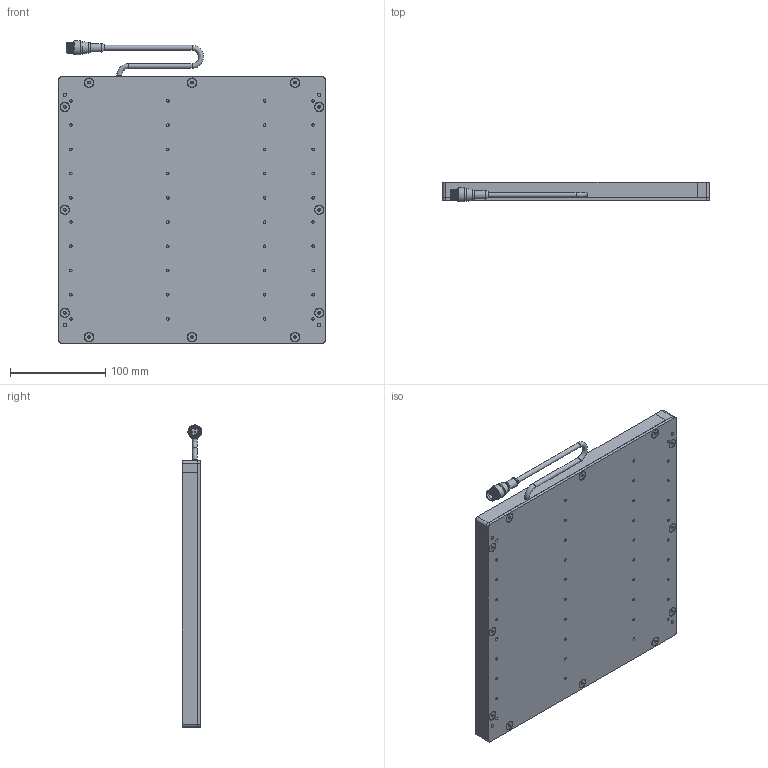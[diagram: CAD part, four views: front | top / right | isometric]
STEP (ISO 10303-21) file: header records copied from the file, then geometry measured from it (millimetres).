
FILE_DESCRIPTION (( 'STEP AP214' ), '1' );
FILE_NAME ('SBL1010-XXX-WDC.STEP', '2026-04-17T14:18:50', ( '' ), ( '' ), 'SwSTEP 2.0', 'SolidWorks 2025', '' );
FILE_SCHEMA (( 'AUTOMOTIVE_DESIGN' ));
Length unit declared in the file: inch
Products named in the file (10): M12 Connector 4,5 and 8 pin_RS4.5T; Hex Standoff .375 x 8-32; 8-32 x 0.375 FHCS (92210A192)_92210A192; SBL3 to 18in rail_10in No CG; BackPlate BLYYXX_1010; SBL1010-XXX-WDC; SC Pigtail Complete 18_5pin; MC Pigtail 24; WD-SBLYYXX_10x10; SBL3 to 18in rail_10in rail
Assembly tree (33 placements, depth 3):
  SBL1010-XXX-WDC
    BackPlate BLYYXX_1010
    SBL3 to 18in rail_10in rail
    SBL3 to 18in rail_10in No CG  x3
    SC Pigtail Complete 18_5pin
      MC Pigtail 24
      M12 Connector 4,5 and 8 pin_RS4.5T
    WD-SBLYYXX_10x10
    Hex Standoff .375 x 8-32  x12
    8-32 x 0.375 FHCS (92210A192)_92210A192  x12
Bounding box: 279.4 x 20.74 x 316.93 mm (x, y, z)
Volume: 659530.1 mm3; surface area: 396527.7 mm2
Topology: 32 solids, 32 shells, 894 faces, 2104 edges, 1299 vertices
Faces by surface type: plane 353, cylinder 276, cone 199, bspline 36, torus 25, sphere 5
Full cylindrical faces by diameter (mm): 0.762 x5, 2.705 x40, 3.454 x16, 4.496 x24, 5.207 x3, 6.604 x8, 6.858 x12, 8.382 x1, 8.636 x1, 9.119 x12, 10.16 x1, 10.541 x1, 11.938 x1, 13.716 x2, 14.732 x1
Entity records: 13414 total; most frequent: CARTESIAN_POINT 3676, DIRECTION 1816, ORIENTED_EDGE 1412, AXIS2_PLACEMENT_3D 766, EDGE_CURVE 706, EDGE_LOOP 636, VERTEX_POINT 538, FACE_OUTER_BOUND 445
